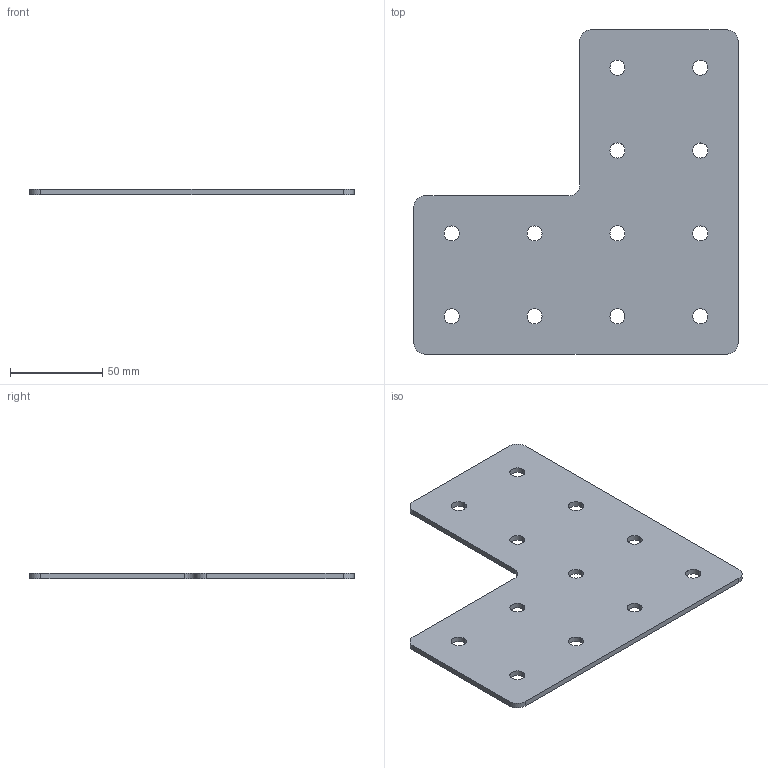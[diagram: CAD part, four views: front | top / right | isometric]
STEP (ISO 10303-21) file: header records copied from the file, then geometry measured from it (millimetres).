
FILE_DESCRIPTION (( 'STEP AP203' ), '1' );
FILE_NAME ('Ã-12-45.STEP', '2016-07-21T12:55:34', ( 'RosInstal-MKM' ), ( '' ), 'SwSTEP 2.0', 'SolidWorks 2014', '' );
FILE_SCHEMA (( 'CONFIG_CONTROL_DESIGN' ));
Length unit declared in the file: millimetre
Products named in the file (1): ﾃ-12-45
Bounding box: 176 x 176 x 3 mm (x, y, z)
Volume: 66634.1 mm3; surface area: 47415.8 mm2
Topology: 1 solids, 1 shells, 38 faces, 108 edges, 72 vertices
Faces by surface type: cylinder 30, plane 8
Entity records: 1397 total; most frequent: DIRECTION 246, CARTESIAN_POINT 219, ORIENTED_EDGE 216, EDGE_CURVE 108, AXIS2_PLACEMENT_3D 99, VERTEX_POINT 72, EDGE_LOOP 62, CIRCLE 60
